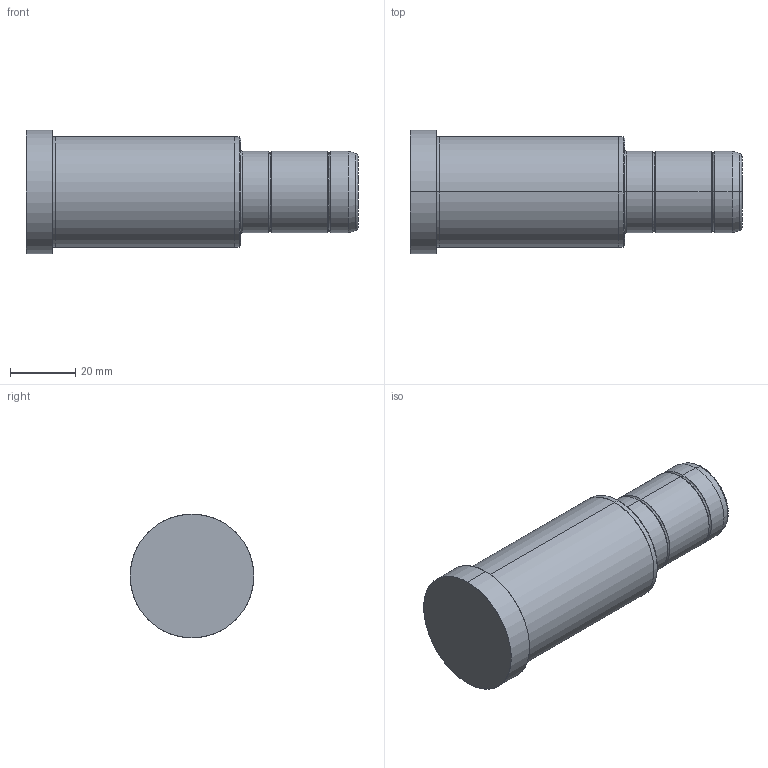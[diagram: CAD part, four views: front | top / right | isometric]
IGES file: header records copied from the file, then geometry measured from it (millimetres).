
Start section: SolidWorks IGES file using analytic representation for surfaces
Global section: file name: C:\Documents and Settings\kalite-mail\Desktop\IGS\D02\25\D02 - 25x66x36.IGS; native system: SolidWorks 2008; preprocessor: SolidWorks 2008; author: kalite-mail; date: 080616.174013; units: millimetre
Bounding box: 102 x 38 x 38 mm (x, y, z)
Surface area: 12209 mm2 (no closed solid volume)
Topology: 0 solids, 0 shells, 36 faces, 696 edges, 696 vertices
Faces by surface type: bspline 18, revolution 18
